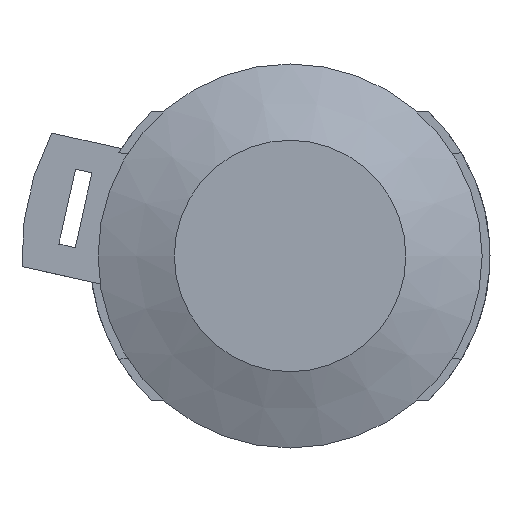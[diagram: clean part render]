
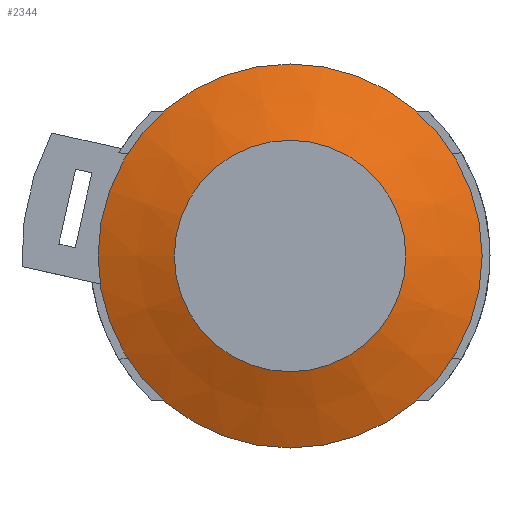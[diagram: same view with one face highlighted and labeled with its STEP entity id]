
A CAD part, left-side view. The second image highlights one B-rep face of the part: STEP entity #2344.
In plain terms, the highlighted conical face has half-angle 67.521 degrees and reference radius 18.25 mm.
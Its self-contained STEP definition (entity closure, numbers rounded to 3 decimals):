
#2344 = ADVANCED_FACE ( 'NONE', ( #8824, #8822 ), #8820, .T. ) ;
#2974 = ORIENTED_EDGE ( 'NONE', *, *, #3396, .T. ) ;
#2975 = ORIENTED_EDGE ( 'NONE', *, *, #3399, .F. ) ;
#3396 = EDGE_CURVE ( 'NONE', #11464, #11464, #10803, .T. ) ;
#3399 = EDGE_CURVE ( 'NONE', #11470, #11470, #10806, .T. ) ;
#3689 = EDGE_LOOP ( 'NONE', ( #2975 ) ) ;
#3692 = EDGE_LOOP ( 'NONE', ( #2974 ) ) ;
#8299 = DIRECTION ( 'NONE',  ( 0., 1., 0. ) ) ;
#8321 = CARTESIAN_POINT ( 'NONE',  ( -9.5, 0., 0. ) ) ;
#8322 = DIRECTION ( 'NONE',  ( 1., 0., 0. ) ) ;
#8820 = CONICAL_SURFACE ( 'NONE', #9137, 18.25, 1.178 ) ;
#8822 = FACE_OUTER_BOUND ( 'NONE', #3689, .T. ) ;
#8824 = FACE_BOUND ( 'NONE', #3692, .T. ) ;
#9137 = AXIS2_PLACEMENT_3D ( 'NONE', #8321, #8322, #8299 ) ;
#10191 = CARTESIAN_POINT ( 'NONE',  ( -12.5, 0., 0. ) ) ;
#10200 = DIRECTION ( 'NONE',  ( 1., 0., 0. ) ) ;
#10201 = DIRECTION ( 'NONE',  ( 0., 1., 0. ) ) ;
#10202 = CARTESIAN_POINT ( 'NONE',  ( -9.5, 0., 0. ) ) ;
#10209 = DIRECTION ( 'NONE',  ( 1., 0., 0. ) ) ;
#10210 = DIRECTION ( 'NONE',  ( 0., 1., 0. ) ) ;
#10803 = CIRCLE ( 'NONE', #11148, 11. ) ;
#10806 = CIRCLE ( 'NONE', #11151, 18.25 ) ;
#11148 = AXIS2_PLACEMENT_3D ( 'NONE', #10191, #10200, #10201 ) ;
#11151 = AXIS2_PLACEMENT_3D ( 'NONE', #10202, #10209, #10210 ) ;
#11464 = VERTEX_POINT ( 'NONE', #11465 ) ;
#11465 = CARTESIAN_POINT ( 'NONE',  ( -12.5, 11., 0. ) ) ;
#11470 = VERTEX_POINT ( 'NONE', #11471 ) ;
#11471 = CARTESIAN_POINT ( 'NONE',  ( -9.5, 18.25, 0. ) ) ;
